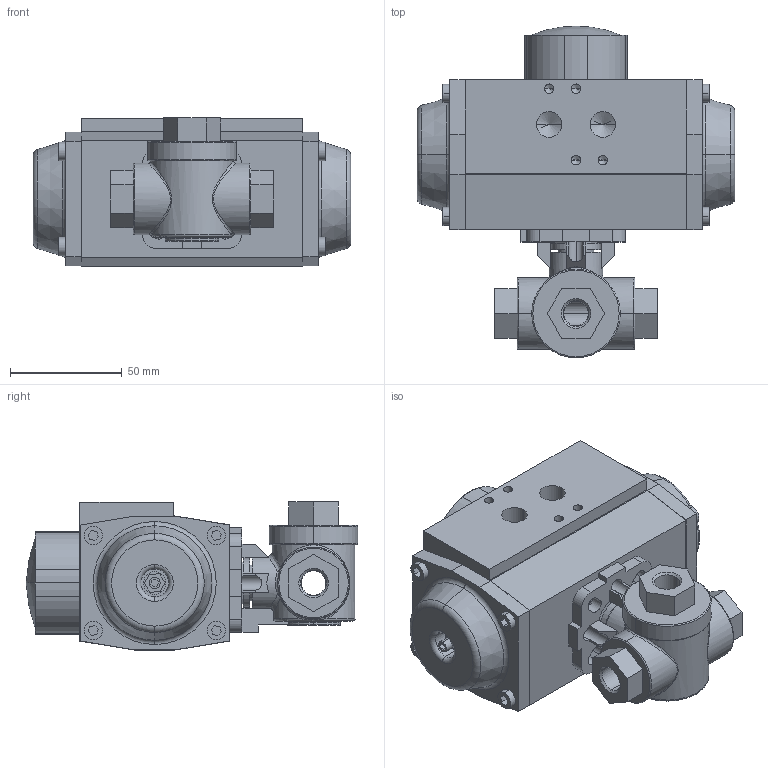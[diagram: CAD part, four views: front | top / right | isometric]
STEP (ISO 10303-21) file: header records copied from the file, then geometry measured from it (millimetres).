
FILE_DESCRIPTION (( 'STEP AP214' ), '1' );
FILE_NAME ('S57D DN8 G1_4 FB + AP1.STEP', '2020-05-04T07:45:09', ( '' ), ( '' ), 'SwSTEP 2.0', 'SolidWorks 2018', '' );
FILE_SCHEMA (( 'AUTOMOTIVE_DESIGN' ));
Length unit declared in the file: millimetre
Products named in the file (3): S57D DN08-G1_4 FB; S57D DN8 G1_4 FB + AP1; AP1_Default<As Machined>
Assembly tree (2 placements, depth 2):
  S57D DN8 G1_4 FB + AP1
    S57D DN08-G1_4 FB
    AP1_Default<As Machined>
Bounding box: 142 x 148.29 x 66.25 mm (x, y, z)
Volume: 651758 mm3; surface area: 85173 mm2
Topology: 12 solids, 12 shells, 510 faces, 1274 edges, 797 vertices
Faces by surface type: plane 275, cylinder 132, cone 52, torus 28, bspline 21, sphere 2
Entity records: 17867 total; most frequent: CARTESIAN_POINT 4459, DIRECTION 2519, ORIENTED_EDGE 2476, EDGE_CURVE 1238, AXIS2_PLACEMENT_3D 851, LINE 817, VECTOR 817, VERTEX_POINT 797
